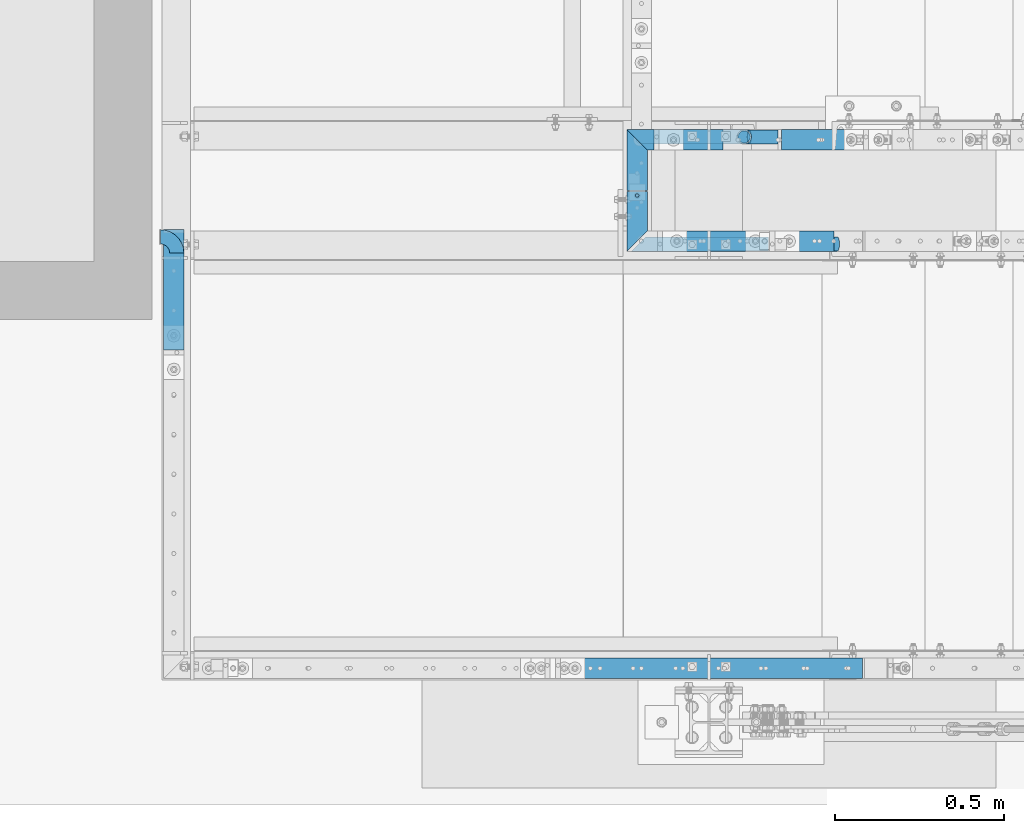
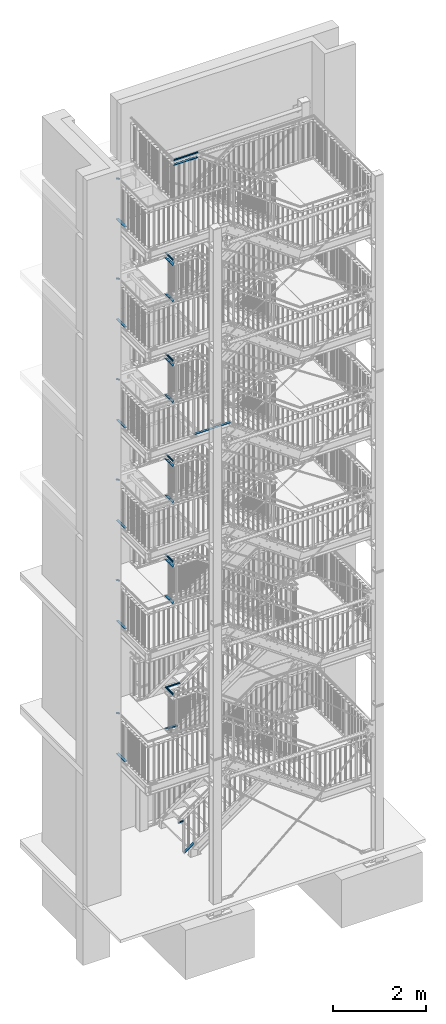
# One storey, part 135 of 831: 47 beams, 1 member, 10 openings.
"""IFC2X3 building model written with IfcOpenShell, lengths in millimetres."""

from ifc_helpers import new_model, entity, si_unit, converted_unit, frame, frame_2d, origin, origin_with_axes, origin_2d, place, context, project, spatial, polyline, rectangle, circle, hollow_circle, outline, extrude, clip, halfspace, material, element, save


model = new_model("IFC2X3")

# Units and contexts
model_context = context("Model", 3, precision=1e-09, world=origin_with_axes())
ifc_project = project(units=[si_unit("LENGTHUNIT", "METRE", prefix="MILLI"), si_unit("AREAUNIT", "SQUARE_METRE"), si_unit("VOLUMEUNIT", "CUBIC_METRE"), converted_unit("PLANEANGLEUNIT", "DEGREE", entity("IfcPlaneAngleMeasure", 0.01745329), si_unit("PLANEANGLEUNIT", "RADIAN"), dimensions=[0, 0, 0, 0, 0, 0, 0])], contexts=[model_context])

# Site, building, storey
site_placement = place(None, origin_with_axes())
site = spatial("IfcSite", under=ifc_project, at=site_placement, Name="Site", CompositionType="ELEMENT")
building_placement = place(site_placement, origin_with_axes())
building = spatial("IfcBuilding", under=site, at=building_placement, Name="Struktur 1", CompositionType="ELEMENT")
storey_placement = place(building_placement, origin_with_axes())
storey = spatial("IfcBuildingStorey", under=building, at=storey_placement, Name="Default Storey", CompositionType="ELEMENT", Elevation=0.0)

# Beams
ifc_material = material(Name="S235JR")
beam_1_placement = place(None, frame((3280.513402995, 5756.383298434, 18973.999999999), z_axis=(0.0, -1.0, 0.0), x_axis=(-1.0, 0.0, 0.0)))
element("IfcBeam", 1, at=beam_1_placement, inside=storey, material=ifc_material, Name="Elbow#1", ObjectType="Elbow#1", context=model_context, shape_type="SweptSolid", body=[
    entity("IfcRevolvedAreaSolid", entity("IfcCircleHollowProfileDef", "AREA", None, entity("IfcAxis2Placement2D", entity("IfcCartesianPoint", [0.0, 0.0])), 21.2, 3.2), entity("IfcAxis2Placement3D", entity("IfcCartesianPoint", [0.0, 0.0, 0.0])), entity("IfcAxis1Placement", entity("IfcCartesianPoint", [48.0, 0.0, 0.0]), entity("IfcDirection", [0.0, -1.0, 0.0])), 90.0),
])
beam_2_placement = place(None, frame((3271.713402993, 5469.238971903, 17899.0), z_axis=(0.0, -1.0, 0.0), x_axis=(0.0, 0.0, -1.0)))
element("IfcBeam", 2, at=beam_2_placement, inside=storey, material=ifc_material, Name="Railing_Kneerail_Landing#22", ObjectType="Railing_Kneerail_Landing#22", context=model_context, shape_type="SweptSolid", body=[
    extrude(rectangle(XDim=10.0, YDim=60.0, at=origin_2d()), origin(), (0.0, 0.0, -1.0), 356.344326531),
])
beam_3_placement = place(None, frame((4593.013402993, 6100.536971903, 4987.0), z_axis=(-1.0, 0.0, 0.0), x_axis=(0.0, 0.0, -1.0)))
element("IfcBeam", 3, at=beam_3_placement, inside=storey, material=ifc_material, Name="Railing_Handrail_Landing#2", ObjectType="Railing_Handrail_Landing#2", context=model_context, shape_type="Clipping", body=[
    clip(clip(extrude(hollow_circle(Radius=21.2, WallThickness=3.2, at=origin_2d()), origin(), (0.0, 0.0, -1.0), 415.145706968), halfspace(frame((4987.0, 732.561077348, -774.962491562), z_axis=(0.0, -0.707106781, -0.707106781), x_axis=(0.0, -0.707106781, 0.707106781)), True)), halfspace(frame((3102.216720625, 6100.536971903, -1365.057844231), z_axis=(0.301609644, 0.0, 0.953431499), x_axis=(0.0, 1.0, 0.0)), True)),
])
beam_4_placement = place(None, frame((4558.701776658, 6091.736971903, 3912.0), z_axis=(-1.0, 0.0, 0.0), x_axis=(0.0, 0.0, -1.0)))
element("IfcBeam", 4, at=beam_4_placement, inside=storey, material=ifc_material, Name="Railing_Kneerail_Landing#0", ObjectType="Railing_Kneerail_Landing#0", context=model_context, shape_type="Clipping", body=[
    clip(extrude(rectangle(XDim=10.0, YDim=60.0, at=origin_2d()), origin(), (0.0, 0.0, -1.0), 135.511626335), halfspace(frame((3912.0, 723.761077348, -809.274117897), z_axis=(0.0, -0.707106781, -0.707106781), x_axis=(0.0, -0.707106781, 0.707106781)), True)),
])
beam_5_placement = place(None, frame((4709.213402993, 6091.736971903, 3912.0), z_axis=(-1.0, 0.0, 0.0), x_axis=(0.0, 0.0, -1.0)))
element("IfcBeam", 5, at=beam_5_placement, inside=storey, material=ifc_material, Name="Railing_Kneerail_Landing#1", ObjectType="Railing_Kneerail_Landing#1", context=model_context, shape_type="SweptSolid", body=[
    extrude(rectangle(XDim=10.0, YDim=60.0, at=origin_2d()), origin(), (0.0, 0.0, -1.0), 188.460062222),
])
beam_6_placement = place(None, frame((5061.878639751, 6100.536971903, 1341.2000007), z_axis=(1.0, 0.0, 0.0), x_axis=(0.0, 0.0, 1.0)))
element("IfcBeam", 6, at=beam_6_placement, inside=storey, material=ifc_material, Name="Railing_Handrail_Landing#0", ObjectType="Railing_Handrail_Landing#0", context=model_context, shape_type="Clipping", body=[
    clip(extrude(hollow_circle(Radius=21.2, WallThickness=3.2, at=origin_2d()), origin(), (0.0, 0.0, -1.0), 143.176973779), halfspace(frame((-3151.151540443, 6100.536971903, -3251.927100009), z_axis=(-0.707106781, 0.0, 0.707106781), x_axis=(0.0, -1.0, 0.0)), True)),
])

# Member, opening
member_placement = place(None, frame((5074.778509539, 6091.736971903, 519.607130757), z_axis=(-0.814635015, 0.0, -0.579973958), x_axis=(0.579973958, 0.0, -0.814635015)))
member = element("IfcMember", 7, at=member_placement, inside=storey, material=ifc_material, Name="Railing_Kneerail_Stair#1", ObjectType="Railing_Kneerail_Stair#1", context=model_context, shape_type="SweptSolid", body=[
    extrude(rectangle(XDim=10.0, YDim=60.0, at=origin_2d()), origin(), (0.0, 0.0, -1.0), 290.358185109),
])
opening_1_placement = place(member_placement, frame((713.438579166, 0.0, 212.226077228), z_axis=(-0.817517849, 0.0, -0.575903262), x_axis=(0.575903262, 0.0, -0.817517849)))
element("IfcOpeningElement", 8, at=opening_1_placement, cuts=member, ObjectType="Opening", context=model_context, shape_type="SweptSolid", body=[
    extrude(outline(polyline([(-1139.998789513, -30.001), (-1139.998789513, 30.001), (-1155.000789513, 30.001), (-1155.000789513, -30.001), (-1139.998789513, -30.001)])), origin(), (0.0, 0.0, 1.0), 128.657025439),
])

# Beams
beam_7_placement = place(None, frame((3280.513402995, 5756.383298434, 16353.999999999), z_axis=(0.0, -1.0, 0.0), x_axis=(-1.0, 0.0, 0.0)))
element("IfcBeam", 9, at=beam_7_placement, inside=storey, material=ifc_material, Name="Elbow#1", ObjectType="Elbow#1", context=model_context, shape_type="SweptSolid", body=[
    entity("IfcRevolvedAreaSolid", entity("IfcCircleHollowProfileDef", "AREA", None, entity("IfcAxis2Placement2D", entity("IfcCartesianPoint", [0.0, 0.0])), 21.2, 3.2), entity("IfcAxis2Placement3D", entity("IfcCartesianPoint", [0.0, 0.0, 0.0])), entity("IfcAxis1Placement", entity("IfcCartesianPoint", [48.0, 0.0, 0.0]), entity("IfcDirection", [0.0, -1.0, 0.0])), 90.0),
])
beam_8_placement = place(None, frame((3271.713402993, 5469.238971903, 15279.0), z_axis=(0.0, -1.0, 0.0), x_axis=(0.0, 0.0, -1.0)))
element("IfcBeam", 10, at=beam_8_placement, inside=storey, material=ifc_material, Name="Railing_Kneerail_Landing#22", ObjectType="Railing_Kneerail_Landing#22", context=model_context, shape_type="SweptSolid", body=[
    extrude(rectangle(XDim=10.0, YDim=60.0, at=origin_2d()), origin(), (0.0, 0.0, -1.0), 356.344326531),
])
beam_9_placement = place(None, frame((3280.513402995, 5756.383298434, 13718.999999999), z_axis=(0.0, -1.0, 0.0), x_axis=(-1.0, 0.0, 0.0)))
element("IfcBeam", 11, at=beam_9_placement, inside=storey, material=ifc_material, Name="Elbow#1", ObjectType="Elbow#1", context=model_context, shape_type="SweptSolid", body=[
    entity("IfcRevolvedAreaSolid", entity("IfcCircleHollowProfileDef", "AREA", None, entity("IfcAxis2Placement2D", entity("IfcCartesianPoint", [0.0, 0.0])), 21.2, 3.2), entity("IfcAxis2Placement3D", entity("IfcCartesianPoint", [0.0, 0.0, 0.0])), entity("IfcAxis1Placement", entity("IfcCartesianPoint", [48.0, 0.0, 0.0]), entity("IfcDirection", [0.0, -1.0, 0.0])), 90.0),
])
beam_10_placement = place(None, frame((3271.713402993, 5469.238971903, 12644.0), z_axis=(0.0, -1.0, 0.0), x_axis=(0.0, 0.0, -1.0)))
element("IfcBeam", 12, at=beam_10_placement, inside=storey, material=ifc_material, Name="Railing_Kneerail_Landing#22", ObjectType="Railing_Kneerail_Landing#22", context=model_context, shape_type="SweptSolid", body=[
    extrude(rectangle(XDim=10.0, YDim=60.0, at=origin_2d()), origin(), (0.0, 0.0, -1.0), 356.344326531),
])
beam_11_placement = place(None, frame((3280.513402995, 5756.383298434, 11091.999999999), z_axis=(0.0, -1.0, 0.0), x_axis=(-1.0, 0.0, 0.0)))
element("IfcBeam", 13, at=beam_11_placement, inside=storey, material=ifc_material, Name="Elbow#1", ObjectType="Elbow#1", context=model_context, shape_type="SweptSolid", body=[
    entity("IfcRevolvedAreaSolid", entity("IfcCircleHollowProfileDef", "AREA", None, entity("IfcAxis2Placement2D", entity("IfcCartesianPoint", [0.0, 0.0])), 21.2, 3.2), entity("IfcAxis2Placement3D", entity("IfcCartesianPoint", [0.0, 0.0, 0.0])), entity("IfcAxis1Placement", entity("IfcCartesianPoint", [48.0, 0.0, 0.0]), entity("IfcDirection", [0.0, -1.0, 0.0])), 90.0),
])
beam_12_placement = place(None, frame((3271.713402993, 5469.238971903, 10017.0), z_axis=(0.0, -1.0, 0.0), x_axis=(0.0, 0.0, -1.0)))
element("IfcBeam", 14, at=beam_12_placement, inside=storey, material=ifc_material, Name="Railing_Kneerail_Landing#22", ObjectType="Railing_Kneerail_Landing#22", context=model_context, shape_type="SweptSolid", body=[
    extrude(rectangle(XDim=10.0, YDim=60.0, at=origin_2d()), origin(), (0.0, 0.0, -1.0), 356.344326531),
])
beam_13_placement = place(None, frame((3280.513402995, 5756.383298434, 8459.999999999), z_axis=(0.0, -1.0, 0.0), x_axis=(-1.0, 0.0, 0.0)))
element("IfcBeam", 15, at=beam_13_placement, inside=storey, material=ifc_material, Name="Elbow#1", ObjectType="Elbow#1", context=model_context, shape_type="SweptSolid", body=[
    entity("IfcRevolvedAreaSolid", entity("IfcCircleHollowProfileDef", "AREA", None, entity("IfcAxis2Placement2D", entity("IfcCartesianPoint", [0.0, 0.0])), 21.2, 3.2), entity("IfcAxis2Placement3D", entity("IfcCartesianPoint", [0.0, 0.0, 0.0])), entity("IfcAxis1Placement", entity("IfcCartesianPoint", [48.0, 0.0, 0.0]), entity("IfcDirection", [0.0, -1.0, 0.0])), 90.0),
])
beam_14_placement = place(None, frame((3271.713402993, 5469.238971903, 7385.0), z_axis=(0.0, -1.0, 0.0), x_axis=(0.0, 0.0, -1.0)))
element("IfcBeam", 16, at=beam_14_placement, inside=storey, material=ifc_material, Name="Railing_Kneerail_Landing#22", ObjectType="Railing_Kneerail_Landing#22", context=model_context, shape_type="SweptSolid", body=[
    extrude(rectangle(XDim=10.0, YDim=60.0, at=origin_2d()), origin(), (0.0, 0.0, -1.0), 356.344326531),
])
beam_15_placement = place(None, frame((3280.513402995, 5756.383298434, 4986.999999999), z_axis=(0.0, -1.0, 0.0), x_axis=(-1.0, 0.0, 0.0)))
element("IfcBeam", 17, at=beam_15_placement, inside=storey, material=ifc_material, Name="Elbow#1", ObjectType="Elbow#1", context=model_context, shape_type="SweptSolid", body=[
    entity("IfcRevolvedAreaSolid", entity("IfcCircleHollowProfileDef", "AREA", None, entity("IfcAxis2Placement2D", entity("IfcCartesianPoint", [0.0, 0.0])), 21.2, 3.2), entity("IfcAxis2Placement3D", entity("IfcCartesianPoint", [0.0, 0.0, 0.0])), entity("IfcAxis1Placement", entity("IfcCartesianPoint", [48.0, 0.0, 0.0]), entity("IfcDirection", [0.0, -1.0, 0.0])), 90.0),
])
beam_16_placement = place(None, frame((3271.713402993, 5469.238971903, 3912.0), z_axis=(0.0, -1.0, 0.0), x_axis=(0.0, 0.0, -1.0)))
element("IfcBeam", 18, at=beam_16_placement, inside=storey, material=ifc_material, Name="Railing_Kneerail_Landing#22", ObjectType="Railing_Kneerail_Landing#22", context=model_context, shape_type="SweptSolid", body=[
    extrude(rectangle(XDim=10.0, YDim=60.0, at=origin_2d()), origin(), (0.0, 0.0, -1.0), 356.344326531),
])
beam_17_placement = place(None, frame((5226.652433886, 5791.736971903, 18847.8), z_axis=(1.0, 0.0, 0.0), x_axis=(0.0, 0.0, -1.0)))
element("IfcBeam", 19, at=beam_17_placement, inside=storey, material=ifc_material, Name="Railing_Kneerail_Landing#1005", ObjectType="Railing_Kneerail_Landing#1005", context=model_context, shape_type="SweptSolid", body=[
    extrude(rectangle(XDim=10.0, YDim=60.0, at=origin_2d()), origin(), (0.0, 0.0, -1.0), 189.938530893),
])

# Beam, opening
beam_18_placement = place(None, frame((5033.713902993, 5791.736971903, 18847.8), z_axis=(1.0, 0.0, 0.0), x_axis=(0.0, 0.0, -1.0)))
beam_18 = element("IfcBeam", 20, at=beam_18_placement, inside=storey, material=ifc_material, Name="Railing_Kneerail_Landing#1005", ObjectType="Railing_Kneerail_Landing#1005", context=model_context, shape_type="Clipping", body=[
    clip(extrude(rectangle(XDim=10.0, YDim=60.0, at=origin_2d()), origin(), (0.0, 0.0, -1.0), 420.012126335), halfspace(frame((18847.8, -5224.225894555, -5601.224980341), z_axis=(0.0, -0.707106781, 0.707106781), x_axis=(0.0, 0.707106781, 0.707106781)), True)),
])
opening_2_placement = place(beam_18_placement, frame((5.5, 0.0, -6.998999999), z_axis=(1.0, 0.0, 0.0), x_axis=(0.0, 1.0, 0.0)))
element("IfcOpeningElement", 21, at=opening_2_placement, cuts=beam_18, ObjectType="Opening", context=model_context, shape_type="SweptSolid", body=[
    extrude(circle(Radius=5.001, at=frame_2d((0.0, -5.001), x_axis=(1.0, 0.0))), origin(), (0.0, 0.0, -1.0), 11.0),
])

# Beams
beam_19_placement = place(None, frame((5268.214989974, 5782.936971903, 18974.0), z_axis=(1.0, 0.0, 0.0), x_axis=(0.0, 0.0, -1.0)))
element("IfcBeam", 22, at=beam_19_placement, inside=storey, material=ifc_material, Name="Railing_Handrail_Landing#4", ObjectType="Railing_Handrail_Landing#4", context=model_context, shape_type="Clipping", body=[
    clip(extrude(hollow_circle(Radius=21.2, WallThickness=3.2, at=origin_2d()), origin(), (0.0, 0.0, -1.0), 231.501086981), halfspace(frame((18716.438937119, -5782.936971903, -6066.935776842), z_axis=(-0.306904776, 0.0, -0.951740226), x_axis=(0.0, -1.0, 0.0)), True)),
])
beam_20_placement = place(None, frame((5033.713902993, 5782.936971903, 18974.0), z_axis=(1.0, 0.0, 0.0), x_axis=(0.0, 0.0, -1.0)))
element("IfcBeam", 23, at=beam_20_placement, inside=storey, material=ifc_material, Name="Railing_Handrail_Landing#4", ObjectType="Railing_Handrail_Landing#4", context=model_context, shape_type="Clipping", body=[
    clip(extrude(hollow_circle(Radius=21.2, WallThickness=3.2, at=origin_2d()), origin(), (0.0, 0.0, -1.0), 428.2005), halfspace(frame((18974.0, -5215.425894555, -5601.224980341), z_axis=(0.0, -0.707106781, 0.707106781), x_axis=(0.0, 0.707106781, 0.707106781)), True)),
])
beam_21_placement = place(None, frame((4635.413402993, 5740.536971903, 16354.0), z_axis=(0.0, -1.0, 0.0), x_axis=(0.0, 0.0, -1.0)))
element("IfcBeam", 24, at=beam_21_placement, inside=storey, material=ifc_material, Name="Railing_Handrail_Landing#5", ObjectType="Railing_Handrail_Landing#5", context=model_context, shape_type="Clipping", body=[
    clip(extrude(hollow_circle(Radius=21.2, WallThickness=3.2, at=origin_2d()), origin(), (0.0, 0.0, -1.0), 198.2), halfspace(frame((16354.0, -5209.175894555, 5166.774480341), z_axis=(0.0, -0.707106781, -0.707106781), x_axis=(0.0, -0.707106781, 0.707106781)), True)),
])
beam_22_placement = place(None, frame((4635.413402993, 5941.736971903, 16354.0), z_axis=(0.0, -1.0, 0.0), x_axis=(0.0, 0.0, -1.0)))
element("IfcBeam", 25, at=beam_22_placement, inside=storey, material=ifc_material, Name="Railing_Handrail_Landing#5", ObjectType="Railing_Handrail_Landing#5", context=model_context, shape_type="Clipping", body=[
    clip(extrude(hollow_circle(Radius=21.2, WallThickness=3.2, at=origin_2d()), origin(), (0.0, 0.0, -1.0), 201.2), halfspace(frame((16354.0, 732.561077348, 573.762491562), z_axis=(0.0, -0.707106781, 0.707106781), x_axis=(0.0, 0.707106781, 0.707106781)), True)),
])

# Beam, opening
beam_23_placement = place(None, frame((4644.213402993, 5748.725345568, 16227.8), z_axis=(0.0, -1.0, 0.0), x_axis=(0.0, 0.0, -1.0)))
beam_23 = element("IfcBeam", 26, at=beam_23_placement, inside=storey, material=ifc_material, Name="Railing_Kneerail_Landing#1006", ObjectType="Railing_Kneerail_Landing#1006", context=model_context, shape_type="Clipping", body=[
    clip(extrude(rectangle(XDim=10.0, YDim=60.0, at=origin_2d()), origin(), (0.0, 0.0, -1.0), 190.011626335), halfspace(frame((16227.8, -5217.975894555, 5174.962854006), z_axis=(0.0, -0.707106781, -0.707106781), x_axis=(0.0, -0.707106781, 0.707106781)), True)),
])
opening_3_placement = place(beam_23_placement, frame((5.5, 0.0, -183.012626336), z_axis=(1.0, 0.0, 0.0), x_axis=(0.0, 1.0, 0.0)))
element("IfcOpeningElement", 27, at=opening_3_placement, cuts=beam_23, ObjectType="Opening", context=model_context, shape_type="SweptSolid", body=[
    extrude(circle(Radius=5.001, at=frame_2d((0.0, 5.001), x_axis=(1.0, 0.0))), origin(), (0.0, 0.0, -1.0), 11.0),
])

# Beam
beam_24_placement = place(None, frame((4644.213402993, 5941.736971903, 16227.8), z_axis=(0.0, -1.0, 0.0), x_axis=(0.0, 0.0, -1.0)))
element("IfcBeam", 28, at=beam_24_placement, inside=storey, material=ifc_material, Name="Railing_Kneerail_Landing#1006", ObjectType="Railing_Kneerail_Landing#1006", context=model_context, shape_type="Clipping", body=[
    clip(extrude(rectangle(XDim=10.0, YDim=60.0, at=origin_2d()), origin(), (0.0, 0.0, -1.0), 193.011626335), halfspace(frame((16227.8, 723.761077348, 573.762491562), z_axis=(0.0, -0.707106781, 0.707106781), x_axis=(0.0, 0.707106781, 0.707106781)), True)),
])

# Beam, opening
beam_25_placement = place(None, frame((4644.213402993, 5748.725345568, 15279.0), z_axis=(0.0, -1.0, 0.0), x_axis=(0.0, 0.0, -1.0)))
beam_25 = element("IfcBeam", 29, at=beam_25_placement, inside=storey, material=ifc_material, Name="Railing_Kneerail_Landing#6", ObjectType="Railing_Kneerail_Landing#6", context=model_context, shape_type="Clipping", body=[
    clip(extrude(rectangle(XDim=10.0, YDim=60.0, at=origin_2d()), origin(), (0.0, 0.0, -1.0), 190.011626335), halfspace(frame((15279.0, -5217.975894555, 5174.962854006), z_axis=(0.0, -0.707106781, -0.707106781), x_axis=(0.0, -0.707106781, 0.707106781)), True)),
])
opening_4_placement = place(beam_25_placement, frame((5.5, 0.0, -183.012626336), z_axis=(1.0, 0.0, 0.0), x_axis=(0.0, 1.0, 0.0)))
element("IfcOpeningElement", 30, at=opening_4_placement, cuts=beam_25, ObjectType="Opening", context=model_context, shape_type="SweptSolid", body=[
    extrude(circle(Radius=5.001, at=frame_2d((0.0, 5.001), x_axis=(1.0, 0.0))), origin(), (0.0, 0.0, -1.0), 11.0),
])

# Beams
beam_26_placement = place(None, frame((4644.213402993, 5941.736971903, 15279.0), z_axis=(0.0, -1.0, 0.0), x_axis=(0.0, 0.0, -1.0)))
element("IfcBeam", 31, at=beam_26_placement, inside=storey, material=ifc_material, Name="Railing_Kneerail_Landing#6", ObjectType="Railing_Kneerail_Landing#6", context=model_context, shape_type="Clipping", body=[
    clip(extrude(rectangle(XDim=10.0, YDim=60.0, at=origin_2d()), origin(), (0.0, 0.0, -1.0), 193.011626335), halfspace(frame((15279.0, 723.761077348, 573.762491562), z_axis=(0.0, -0.707106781, 0.707106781), x_axis=(0.0, 0.707106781, 0.707106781)), True)),
])
beam_27_placement = place(None, frame((4635.413402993, 5740.536971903, 13719.0), z_axis=(0.0, -1.0, 0.0), x_axis=(0.0, 0.0, -1.0)))
element("IfcBeam", 32, at=beam_27_placement, inside=storey, material=ifc_material, Name="Railing_Handrail_Landing#5", ObjectType="Railing_Handrail_Landing#5", context=model_context, shape_type="Clipping", body=[
    clip(extrude(hollow_circle(Radius=21.2, WallThickness=3.2, at=origin_2d()), origin(), (0.0, 0.0, -1.0), 198.2), halfspace(frame((13719.0, -5209.175894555, 5166.774480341), z_axis=(0.0, -0.707106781, -0.707106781), x_axis=(0.0, -0.707106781, 0.707106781)), True)),
])
beam_28_placement = place(None, frame((4635.413402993, 5941.736971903, 13719.0), z_axis=(0.0, -1.0, 0.0), x_axis=(0.0, 0.0, -1.0)))
element("IfcBeam", 33, at=beam_28_placement, inside=storey, material=ifc_material, Name="Railing_Handrail_Landing#5", ObjectType="Railing_Handrail_Landing#5", context=model_context, shape_type="Clipping", body=[
    clip(extrude(hollow_circle(Radius=21.2, WallThickness=3.2, at=origin_2d()), origin(), (0.0, 0.0, -1.0), 201.2), halfspace(frame((13719.0, 732.561077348, 573.762491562), z_axis=(0.0, -0.707106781, 0.707106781), x_axis=(0.0, 0.707106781, 0.707106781)), True)),
])

# Beam, opening
beam_29_placement = place(None, frame((4644.213402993, 5748.725345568, 13592.8), z_axis=(0.0, -1.0, 0.0), x_axis=(0.0, 0.0, -1.0)))
beam_29 = element("IfcBeam", 34, at=beam_29_placement, inside=storey, material=ifc_material, Name="Railing_Kneerail_Landing#1006", ObjectType="Railing_Kneerail_Landing#1006", context=model_context, shape_type="Clipping", body=[
    clip(extrude(rectangle(XDim=10.0, YDim=60.0, at=origin_2d()), origin(), (0.0, 0.0, -1.0), 190.011626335), halfspace(frame((13592.8, -5217.975894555, 5174.962854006), z_axis=(0.0, -0.707106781, -0.707106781), x_axis=(0.0, -0.707106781, 0.707106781)), True)),
])
opening_5_placement = place(beam_29_placement, frame((5.5, 0.0, -183.012626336), z_axis=(1.0, 0.0, 0.0), x_axis=(0.0, 1.0, 0.0)))
element("IfcOpeningElement", 35, at=opening_5_placement, cuts=beam_29, ObjectType="Opening", context=model_context, shape_type="SweptSolid", body=[
    extrude(circle(Radius=5.001, at=frame_2d((0.0, 5.001), x_axis=(1.0, 0.0))), origin(), (0.0, 0.0, -1.0), 11.0),
])

# Beam
beam_30_placement = place(None, frame((4644.213402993, 5941.736971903, 13592.8), z_axis=(0.0, -1.0, 0.0), x_axis=(0.0, 0.0, -1.0)))
element("IfcBeam", 36, at=beam_30_placement, inside=storey, material=ifc_material, Name="Railing_Kneerail_Landing#1006", ObjectType="Railing_Kneerail_Landing#1006", context=model_context, shape_type="Clipping", body=[
    clip(extrude(rectangle(XDim=10.0, YDim=60.0, at=origin_2d()), origin(), (0.0, 0.0, -1.0), 193.011626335), halfspace(frame((13592.8, 723.761077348, 573.762491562), z_axis=(0.0, -0.707106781, 0.707106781), x_axis=(0.0, 0.707106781, 0.707106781)), True)),
])

# Beam, opening
beam_31_placement = place(None, frame((4644.213402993, 5748.725345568, 12644.0), z_axis=(0.0, -1.0, 0.0), x_axis=(0.0, 0.0, -1.0)))
beam_31 = element("IfcBeam", 37, at=beam_31_placement, inside=storey, material=ifc_material, Name="Railing_Kneerail_Landing#6", ObjectType="Railing_Kneerail_Landing#6", context=model_context, shape_type="Clipping", body=[
    clip(extrude(rectangle(XDim=10.0, YDim=60.0, at=origin_2d()), origin(), (0.0, 0.0, -1.0), 190.011626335), halfspace(frame((12644.0, -5217.975894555, 5174.962854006), z_axis=(0.0, -0.707106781, -0.707106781), x_axis=(0.0, -0.707106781, 0.707106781)), True)),
])
opening_6_placement = place(beam_31_placement, frame((5.5, 0.0, -183.012626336), z_axis=(1.0, 0.0, 0.0), x_axis=(0.0, 1.0, 0.0)))
element("IfcOpeningElement", 38, at=opening_6_placement, cuts=beam_31, ObjectType="Opening", context=model_context, shape_type="SweptSolid", body=[
    extrude(circle(Radius=5.001, at=frame_2d((0.0, 5.001), x_axis=(1.0, 0.0))), origin(), (0.0, 0.0, -1.0), 11.0),
])

# Beams
beam_32_placement = place(None, frame((4644.213402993, 5941.736971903, 12644.0), z_axis=(0.0, -1.0, 0.0), x_axis=(0.0, 0.0, -1.0)))
element("IfcBeam", 39, at=beam_32_placement, inside=storey, material=ifc_material, Name="Railing_Kneerail_Landing#6", ObjectType="Railing_Kneerail_Landing#6", context=model_context, shape_type="Clipping", body=[
    clip(extrude(rectangle(XDim=10.0, YDim=60.0, at=origin_2d()), origin(), (0.0, 0.0, -1.0), 193.011626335), halfspace(frame((12644.0, 723.761077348, 573.762491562), z_axis=(0.0, -0.707106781, 0.707106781), x_axis=(0.0, 0.707106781, 0.707106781)), True)),
])
beam_33_placement = place(None, frame((4635.413402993, 5740.536971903, 11092.0), z_axis=(0.0, -1.0, 0.0), x_axis=(0.0, 0.0, -1.0)))
element("IfcBeam", 40, at=beam_33_placement, inside=storey, material=ifc_material, Name="Railing_Handrail_Landing#5", ObjectType="Railing_Handrail_Landing#5", context=model_context, shape_type="Clipping", body=[
    clip(extrude(hollow_circle(Radius=21.2, WallThickness=3.2, at=origin_2d()), origin(), (0.0, 0.0, -1.0), 198.2), halfspace(frame((11092.0, -5209.175894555, 5166.774480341), z_axis=(0.0, -0.707106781, -0.707106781), x_axis=(0.0, -0.707106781, 0.707106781)), True)),
])
beam_34_placement = place(None, frame((4635.413402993, 5941.736971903, 11092.0), z_axis=(0.0, -1.0, 0.0), x_axis=(0.0, 0.0, -1.0)))
element("IfcBeam", 41, at=beam_34_placement, inside=storey, material=ifc_material, Name="Railing_Handrail_Landing#5", ObjectType="Railing_Handrail_Landing#5", context=model_context, shape_type="Clipping", body=[
    clip(extrude(hollow_circle(Radius=21.2, WallThickness=3.2, at=origin_2d()), origin(), (0.0, 0.0, -1.0), 201.2), halfspace(frame((11092.0, 732.561077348, 573.762491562), z_axis=(0.0, -0.707106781, 0.707106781), x_axis=(0.0, 0.707106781, 0.707106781)), True)),
])

# Beam, opening
beam_35_placement = place(None, frame((4644.213402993, 5748.725345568, 10965.8), z_axis=(0.0, -1.0, 0.0), x_axis=(0.0, 0.0, -1.0)))
beam_35 = element("IfcBeam", 42, at=beam_35_placement, inside=storey, material=ifc_material, Name="Railing_Kneerail_Landing#1006", ObjectType="Railing_Kneerail_Landing#1006", context=model_context, shape_type="Clipping", body=[
    clip(extrude(rectangle(XDim=10.0, YDim=60.0, at=origin_2d()), origin(), (0.0, 0.0, -1.0), 190.011626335), halfspace(frame((10965.8, -5217.975894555, 5174.962854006), z_axis=(0.0, -0.707106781, -0.707106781), x_axis=(0.0, -0.707106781, 0.707106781)), True)),
])
opening_7_placement = place(beam_35_placement, frame((5.5, 0.0, -183.012626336), z_axis=(1.0, 0.0, 0.0), x_axis=(0.0, 1.0, 0.0)))
element("IfcOpeningElement", 43, at=opening_7_placement, cuts=beam_35, ObjectType="Opening", context=model_context, shape_type="SweptSolid", body=[
    extrude(circle(Radius=5.001, at=frame_2d((0.0, 5.001), x_axis=(1.0, 0.0))), origin(), (0.0, 0.0, -1.0), 11.0),
])

# Beam
beam_36_placement = place(None, frame((4644.213402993, 5941.736971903, 10965.8), z_axis=(0.0, -1.0, 0.0), x_axis=(0.0, 0.0, -1.0)))
element("IfcBeam", 44, at=beam_36_placement, inside=storey, material=ifc_material, Name="Railing_Kneerail_Landing#1006", ObjectType="Railing_Kneerail_Landing#1006", context=model_context, shape_type="Clipping", body=[
    clip(extrude(rectangle(XDim=10.0, YDim=60.0, at=origin_2d()), origin(), (0.0, 0.0, -1.0), 193.011626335), halfspace(frame((10965.8, 723.761077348, 573.762491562), z_axis=(0.0, -0.707106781, 0.707106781), x_axis=(0.0, 0.707106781, 0.707106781)), True)),
])

# Beam, opening
beam_37_placement = place(None, frame((4644.213402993, 5748.725345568, 10017.0), z_axis=(0.0, -1.0, 0.0), x_axis=(0.0, 0.0, -1.0)))
beam_37 = element("IfcBeam", 45, at=beam_37_placement, inside=storey, material=ifc_material, Name="Railing_Kneerail_Landing#6", ObjectType="Railing_Kneerail_Landing#6", context=model_context, shape_type="Clipping", body=[
    clip(extrude(rectangle(XDim=10.0, YDim=60.0, at=origin_2d()), origin(), (0.0, 0.0, -1.0), 190.011626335), halfspace(frame((10017.0, -5217.975894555, 5174.962854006), z_axis=(0.0, -0.707106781, -0.707106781), x_axis=(0.0, -0.707106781, 0.707106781)), True)),
])
opening_8_placement = place(beam_37_placement, frame((5.5, 0.0, -183.012626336), z_axis=(1.0, 0.0, 0.0), x_axis=(0.0, 1.0, 0.0)))
element("IfcOpeningElement", 46, at=opening_8_placement, cuts=beam_37, ObjectType="Opening", context=model_context, shape_type="SweptSolid", body=[
    extrude(circle(Radius=5.001, at=frame_2d((0.0, 5.001), x_axis=(1.0, 0.0))), origin(), (0.0, 0.0, -1.0), 11.0),
])

# Beams
beam_38_placement = place(None, frame((4644.213402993, 5941.736971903, 10017.0), z_axis=(0.0, -1.0, 0.0), x_axis=(0.0, 0.0, -1.0)))
element("IfcBeam", 47, at=beam_38_placement, inside=storey, material=ifc_material, Name="Railing_Kneerail_Landing#6", ObjectType="Railing_Kneerail_Landing#6", context=model_context, shape_type="Clipping", body=[
    clip(extrude(rectangle(XDim=10.0, YDim=60.0, at=origin_2d()), origin(), (0.0, 0.0, -1.0), 193.011626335), halfspace(frame((10017.0, 723.761077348, 573.762491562), z_axis=(0.0, -0.707106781, 0.707106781), x_axis=(0.0, 0.707106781, 0.707106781)), True)),
])
beam_39_placement = place(None, frame((4635.413402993, 5740.536971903, 8460.0), z_axis=(0.0, -1.0, 0.0), x_axis=(0.0, 0.0, -1.0)))
element("IfcBeam", 48, at=beam_39_placement, inside=storey, material=ifc_material, Name="Railing_Handrail_Landing#5", ObjectType="Railing_Handrail_Landing#5", context=model_context, shape_type="Clipping", body=[
    clip(extrude(hollow_circle(Radius=21.2, WallThickness=3.2, at=origin_2d()), origin(), (0.0, 0.0, -1.0), 198.2), halfspace(frame((8460.0, -5209.175894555, 5166.774480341), z_axis=(0.0, -0.707106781, -0.707106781), x_axis=(0.0, -0.707106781, 0.707106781)), True)),
])
beam_40_placement = place(None, frame((4635.413402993, 5941.736971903, 8460.0), z_axis=(0.0, -1.0, 0.0), x_axis=(0.0, 0.0, -1.0)))
element("IfcBeam", 49, at=beam_40_placement, inside=storey, material=ifc_material, Name="Railing_Handrail_Landing#5", ObjectType="Railing_Handrail_Landing#5", context=model_context, shape_type="Clipping", body=[
    clip(extrude(hollow_circle(Radius=21.2, WallThickness=3.2, at=origin_2d()), origin(), (0.0, 0.0, -1.0), 201.2), halfspace(frame((8460.0, 732.561077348, 573.762491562), z_axis=(0.0, -0.707106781, 0.707106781), x_axis=(0.0, 0.707106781, 0.707106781)), True)),
])

# Beam, opening
beam_41_placement = place(None, frame((4644.213402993, 5748.725345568, 8333.8), z_axis=(0.0, -1.0, 0.0), x_axis=(0.0, 0.0, -1.0)))
beam_41 = element("IfcBeam", 50, at=beam_41_placement, inside=storey, material=ifc_material, Name="Railing_Kneerail_Landing#1007", ObjectType="Railing_Kneerail_Landing#1007", context=model_context, shape_type="Clipping", body=[
    clip(extrude(rectangle(XDim=10.0, YDim=60.0, at=origin_2d()), origin(), (0.0, 0.0, -1.0), 190.011626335), halfspace(frame((8333.8, -5217.975894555, 5174.962854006), z_axis=(0.0, -0.707106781, -0.707106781), x_axis=(0.0, -0.707106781, 0.707106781)), True)),
])
opening_9_placement = place(beam_41_placement, frame((5.5, 0.0, -183.012626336), z_axis=(1.0, 0.0, 0.0), x_axis=(0.0, 1.0, 0.0)))
element("IfcOpeningElement", 51, at=opening_9_placement, cuts=beam_41, ObjectType="Opening", context=model_context, shape_type="SweptSolid", body=[
    extrude(circle(Radius=5.001, at=frame_2d((0.0, 5.001), x_axis=(1.0, 0.0))), origin(), (0.0, 0.0, -1.0), 11.0),
])

# Beam
beam_42_placement = place(None, frame((4644.213402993, 5941.736971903, 8333.8), z_axis=(0.0, -1.0, 0.0), x_axis=(0.0, 0.0, -1.0)))
element("IfcBeam", 52, at=beam_42_placement, inside=storey, material=ifc_material, Name="Railing_Kneerail_Landing#1007", ObjectType="Railing_Kneerail_Landing#1007", context=model_context, shape_type="Clipping", body=[
    clip(extrude(rectangle(XDim=10.0, YDim=60.0, at=origin_2d()), origin(), (0.0, 0.0, -1.0), 193.011626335), halfspace(frame((8333.8, 723.761077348, 573.762491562), z_axis=(0.0, -0.707106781, 0.707106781), x_axis=(0.0, 0.707106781, 0.707106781)), True)),
])

# Beam, opening
beam_43_placement = place(None, frame((4644.213402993, 5748.725345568, 7385.0), z_axis=(0.0, -1.0, 0.0), x_axis=(0.0, 0.0, -1.0)))
beam_43 = element("IfcBeam", 53, at=beam_43_placement, inside=storey, material=ifc_material, Name="Railing_Kneerail_Landing#7", ObjectType="Railing_Kneerail_Landing#7", context=model_context, shape_type="Clipping", body=[
    clip(extrude(rectangle(XDim=10.0, YDim=60.0, at=origin_2d()), origin(), (0.0, 0.0, -1.0), 190.011626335), halfspace(frame((7385.0, -5217.975894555, 5174.962854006), z_axis=(0.0, -0.707106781, -0.707106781), x_axis=(0.0, -0.707106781, 0.707106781)), True)),
])
opening_10_placement = place(beam_43_placement, frame((5.5, 0.0, -183.012626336), z_axis=(1.0, 0.0, 0.0), x_axis=(0.0, 1.0, 0.0)))
element("IfcOpeningElement", 54, at=opening_10_placement, cuts=beam_43, ObjectType="Opening", context=model_context, shape_type="SweptSolid", body=[
    extrude(circle(Radius=5.001, at=frame_2d((0.0, 5.001), x_axis=(1.0, 0.0))), origin(), (0.0, 0.0, -1.0), 11.0),
])

# Beams
beam_44_placement = place(None, frame((4644.213402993, 5941.736971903, 7385.0), z_axis=(0.0, -1.0, 0.0), x_axis=(0.0, 0.0, -1.0)))
element("IfcBeam", 55, at=beam_44_placement, inside=storey, material=ifc_material, Name="Railing_Kneerail_Landing#7", ObjectType="Railing_Kneerail_Landing#7", context=model_context, shape_type="Clipping", body=[
    clip(extrude(rectangle(XDim=10.0, YDim=60.0, at=origin_2d()), origin(), (0.0, 0.0, -1.0), 193.011626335), halfspace(frame((7385.0, 723.761077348, 573.762491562), z_axis=(0.0, -0.707106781, 0.707106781), x_axis=(0.0, 0.707106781, 0.707106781)), True)),
])
beam_45_placement = place(None, frame((4635.413402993, 5740.536971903, 4987.0), z_axis=(0.0, -1.0, 0.0), x_axis=(0.0, 0.0, -1.0)))
element("IfcBeam", 56, at=beam_45_placement, inside=storey, material=ifc_material, Name="Railing_Handrail_Landing#5", ObjectType="Railing_Handrail_Landing#5", context=model_context, shape_type="Clipping", body=[
    clip(extrude(hollow_circle(Radius=21.2, WallThickness=3.2, at=origin_2d()), origin(), (0.0, 0.0, -1.0), 198.2), halfspace(frame((4987.0, -5209.175894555, 5166.774480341), z_axis=(0.0, -0.707106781, -0.707106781), x_axis=(0.0, -0.707106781, 0.707106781)), True)),
])
beam_46_placement = place(None, frame((4635.413402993, 5941.736971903, 4987.0), z_axis=(0.0, -1.0, 0.0), x_axis=(0.0, 0.0, -1.0)))
element("IfcBeam", 57, at=beam_46_placement, inside=storey, material=ifc_material, Name="Railing_Handrail_Landing#5", ObjectType="Railing_Handrail_Landing#5", context=model_context, shape_type="Clipping", body=[
    clip(extrude(hollow_circle(Radius=21.2, WallThickness=3.2, at=origin_2d()), origin(), (0.0, 0.0, -1.0), 201.2), halfspace(frame((4987.0, 732.561077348, 573.762491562), z_axis=(0.0, -0.707106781, 0.707106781), x_axis=(0.0, 0.707106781, 0.707106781)), True)),
])
beam_47_placement = place(None, frame((5311.527784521, 4526.736971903, 12644.0), z_axis=(1.0, 0.0, 0.0), x_axis=(0.0, 0.0, -1.0)))
element("IfcBeam", 58, at=beam_47_placement, inside=storey, material=ifc_material, Name="Railing_Kneerail_Landing#18", ObjectType="Railing_Kneerail_Landing#18", context=model_context, shape_type="SweptSolid", body=[
    extrude(rectangle(XDim=10.0, YDim=60.0, at=origin_2d()), origin(), (0.0, 0.0, -1.0), 894.236095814),
])

save(model, "model.ifc")
